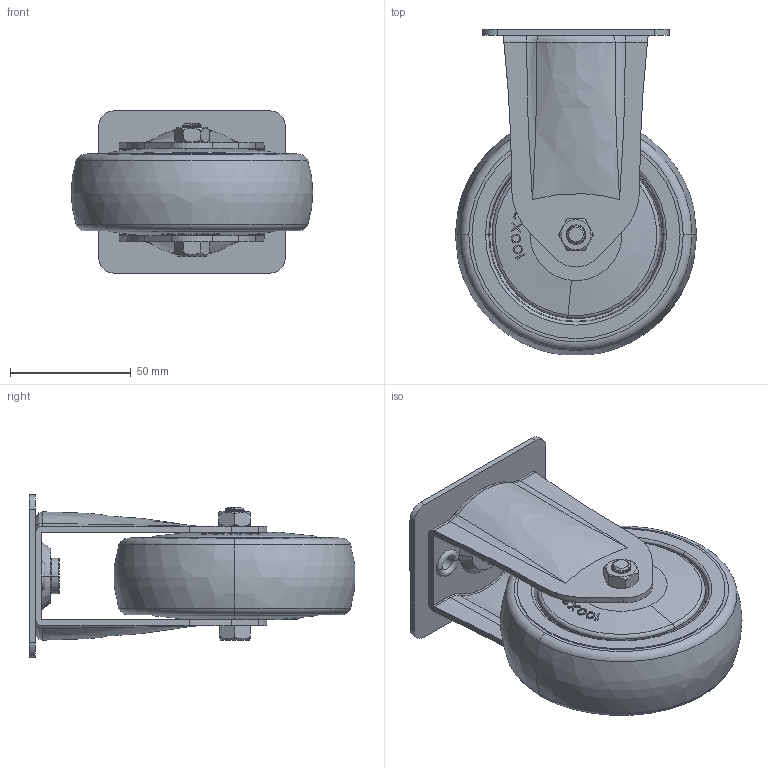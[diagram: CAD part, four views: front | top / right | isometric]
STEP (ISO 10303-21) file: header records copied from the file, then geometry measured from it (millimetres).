
FILE_DESCRIPTION(('FreeCAD Model'),'2;1');
FILE_NAME('C:/Users/drgac.VALVEUB/VALVE CONTROL, s. r. o/Technické - Dokumenty/Modely/374a39J100rZPD.stp','2018-09-24T09:47:54',('Author'),( ''),'Open CASCADE STEP processor 6.8','FreeCAD','Unknown');
FILE_SCHEMA(('AUTOMOTIVE_DESIGN_CC2 { 1 2 10303 214 -1 1 5 4 }'));
Length unit declared in the file: millimetre
Products named in the file (11): ASSEMBLY; 100-GD-ZJ; 100-STRONGO-ZHUANGXIGUAI__1___1; M8LM__1___1; M8X60LS__1___1; 100-STRONGO-NEIXIN__1___1; 67X77-GD-FK; PTD-; 100-STRONGO-ZHOUCHANG__1___002; 100-STRONGO-ZHOUCHANG__1___1; 100-STRONGO-BAOJAO__1___1
Assembly tree (11 placements, depth 2):
  ASSEMBLY
    100-GD-ZJ
    100-STRONGO-ZHUANGXIGUAI__1___1  x2
    M8LM__1___1
    M8X60LS__1___1
    100-STRONGO-NEIXIN__1___1
    67X77-GD-FK
    PTD-
    100-STRONGO-ZHOUCHANG__1___002
    100-STRONGO-ZHOUCHANG__1___1
    100-STRONGO-BAOJAO__1___1
Bounding box: 99.87 x 134.71 x 67 mm (x, y, z)
Volume: 218026.2 mm3; surface area: 122904.2 mm2
Topology: 11 solids, 12 shells, 788 faces, 2038 edges, 1311 vertices
Faces by surface type: plane 454, cylinder 146, cone 82, torus 62, bspline 44
Entity records: 98543 total; most frequent: CARTESIAN_POINT 75149, DIRECTION 2825, ORIENTED_EDGE 2776, PCURVE 2776, DEFINITIONAL_REPRESENTATION 2776, B_SPLINE_CURVE_WITH_KNOTS 2658, EDGE_CURVE 1388, SURFACE_CURVE 1388
